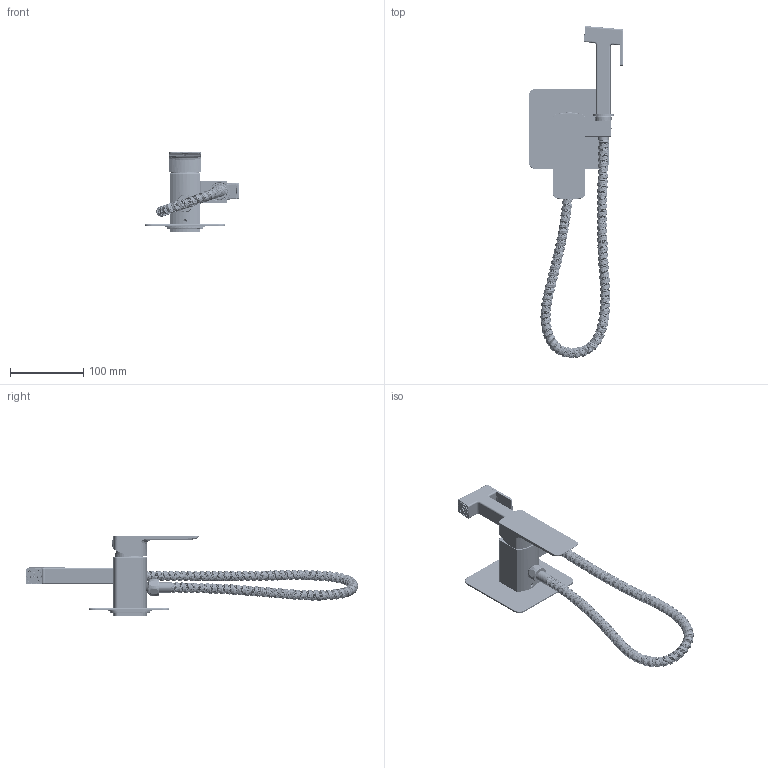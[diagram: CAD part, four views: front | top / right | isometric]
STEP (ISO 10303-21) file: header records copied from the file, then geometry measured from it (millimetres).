
FILE_DESCRIPTION((''),'2;1');
FILE_NAME('PT-829003-3D_ASM','2024-06-20T08:33:13',('GL-JISHU1'),(''),'CREO PARAMETRIC BY PTC INC, 2021063','CREO PARAMETRIC BY PTC INC, 2021063','');
FILE_SCHEMA(('AUTOMOTIVE_DESIGN { 1 0 10303 214 1 1 1 1 }'));
Length unit declared in the file: millimetre
Products named in the file (43): 4ZT-829003-AJJ_1; 4JT-001170-AJJ_1; 5ZT-829003-ACR_ASM_1_ASM; 3MB-001083-KAA_1; 3MB-001083-1-KAA_1; 5MB-001083-KCR_ASM_1_ASM; 3JQ-001558-NAA_1; 5HZ-001016-ACR_1; 3LS-001294-JAA_1; 4SJ-001052-MJJ_1; 5JT-001070-ACR_1; 3LS-001115-JAA_1; 3FX-001038-MMA-1_1; 3FX-001038-MAA-2_1; 3FX-001038-MAA_ASM_1_ASM; 3YG-001009-AJJ_1; 3ZG-010013-GCR_1; 3BS-181003-HCR_1; 3LS-001063-JAA_1; 3SN-001001-MCR_1; 3LS-001744-JAA_1; 3RG-001122-JCR_2; 3SJ-001123-MAA_1; 3ZT-PQ02-HCR_1; 3WK-001020-MCR_1; 3JQ-001549-NAA_1; 3BS-PQ02-HCR_1; 4JT-001294-AJJ_1; 3JQ-001580-NAA_1; 3JQ-001085-NAA_1; 5PD-001025-ACR_1; 5JT-001297-ACR_1; 4JT-001295-AJJ_1; 4TG-001046-JJJ_1; 3JQ-001581-NAA_1; 3LS-001809-JAA_1; 3JQ-001582-NAA_1; 3SJ-001122-MAA_1; 3TH-001003-JAA_1; 3JQ-001050-NAA_1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
Assembly tree (44 placements, depth 4):
  PT-829003-3D_ASM
    PT-829003_ASM_2_ASM
      5ZT-829003-ACR_ASM_1_ASM
        4ZT-829003-AJJ_1
        4JT-001170-AJJ_1
      5MB-001083-KCR_ASM_1_ASM
        3MB-001083-KAA_1
        3MB-001083-1-KAA_1
      3JQ-001558-NAA_1
      5HZ-001016-ACR_1
      3LS-001294-JAA_1
      4SJ-001052-MJJ_1
      5JT-001070-ACR_1
      3LS-001115-JAA_1
      3FX-001038-MAA_ASM_1_ASM
        3FX-001038-MMA-1_1
        3FX-001038-MAA-2_1
      3YG-001009-AJJ_1
      3ZG-010013-GCR_1
      3BS-181003-HCR_1
      3LS-001063-JAA_1
      3SN-001001-MCR_1
      3LS-001744-JAA_1  x2
      3RG-001122-JCR_2
      PT-PQ02_ASM_1_ASM
        3SJ-001123-MAA_1
        3ZT-PQ02-HCR_1
        3WK-001020-MCR_1
        3JQ-001549-NAA_1
        3BS-PQ02-HCR_1
        4JT-001294-AJJ_1
        3JQ-001580-NAA_1
        3JQ-001085-NAA_1
        5PD-001025-ACR_1
        5JT-001297-ACR_1
        4JT-001295-AJJ_1
        4TG-001046-JJJ_1
        3JQ-001581-NAA_1
        3LS-001809-JAA_1
        3JQ-001582-NAA_1  x2
        3SJ-001122-MAA_1
        3TH-001003-JAA_1
        3JQ-001050-NAA_1
Bounding box: 129.19 x 453.08 x 109.4 mm (x, y, z)
Volume: 340369.1 mm3; surface area: 207924.1 mm2
Topology: 39 solids, 39 shells, 2171 faces, 6035 edges, 3954 vertices
Faces by surface type: plane 753, cylinder 655, cone 275, torus 238, bspline 220, sphere 30
Entity records: 279266 total; most frequent: CARTESIAN_POINT 218799, ORIENTED_EDGE 11922, DIRECTION 11443, EDGE_CURVE 5961, AXIS2_PLACEMENT_3D 4501, VERTEX_POINT 3946, VECTOR 2441, LINE 2441
